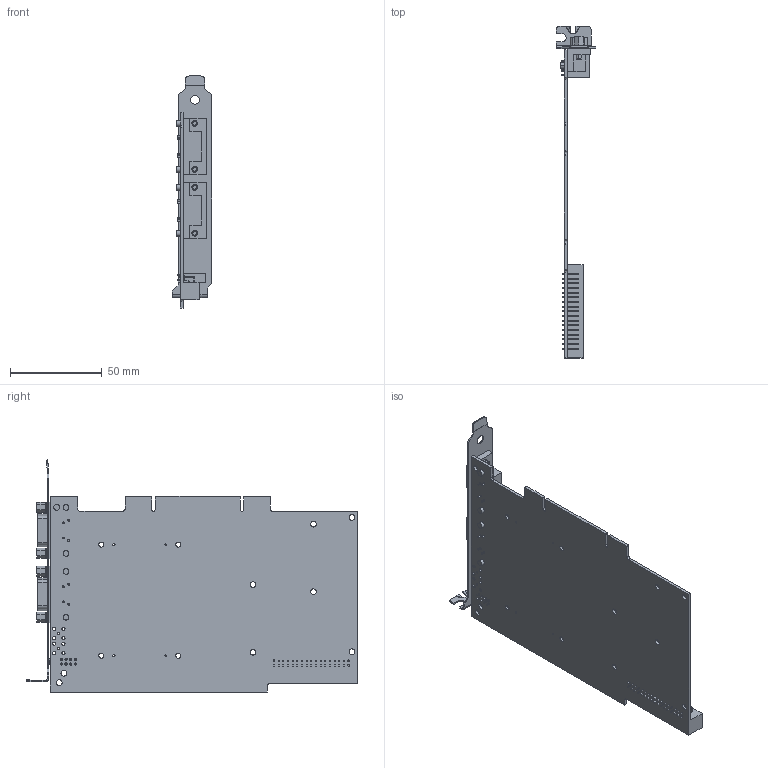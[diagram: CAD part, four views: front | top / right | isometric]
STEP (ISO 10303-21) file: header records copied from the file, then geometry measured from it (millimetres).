
FILE_DESCRIPTION((''),'2;1');
FILE_NAME('CU_PCI-8512_2','2009-02-19T',('dcrowder'),(''),'PRO/ENGINEER BY PARAMETRIC TECHNOLOGY CORPORATION, 2006080','PRO/ENGINEER BY PARAMETRIC TECHNOLOGY CORPORATION, 2006080','');
FILE_SCHEMA(('CONFIG_CONTROL_DESIGN'));
Length unit declared in the file: inch
Products named in the file (1): CU_PCI-8512_2
Bounding box: 21.59 x 180.79 x 126.37 mm (x, y, z)
Volume: 38692.3 mm3; surface area: 47026.8 mm2
Topology: 5 solids, 5 shells, 1246 faces, 3231 edges, 2104 vertices
Faces by surface type: plane 847, cylinder 355, bspline 20, sphere 16, cone 8
Entity records: 39541 total; most frequent: CARTESIAN_POINT 8101, ORIENTED_EDGE 6462, DIRECTION 6385, EDGE_CURVE 3231, VECTOR 2417, LINE 2417, VERTEX_POINT 2104, AXIS2_PLACEMENT_3D 1984
